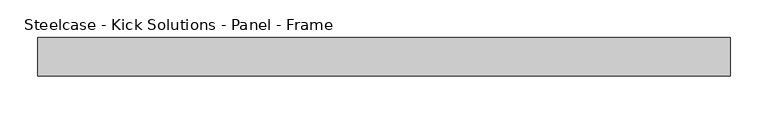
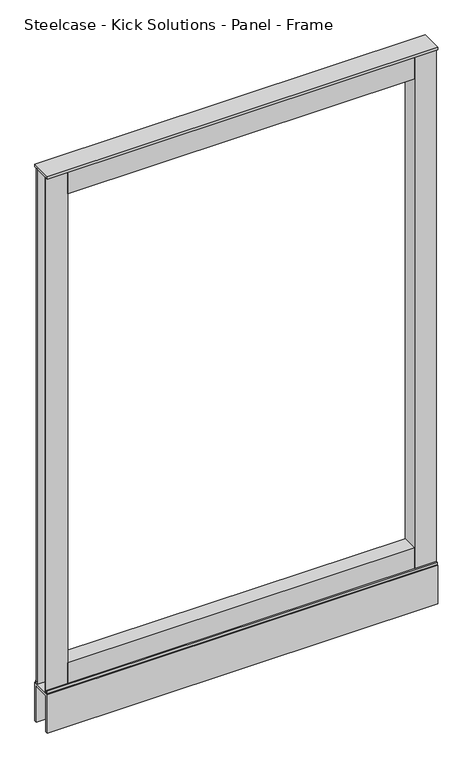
"""IFC4 building model written with IfcOpenShell, lengths in millimetres: furniture geometry, Steelcase - Kick Solutions - Panel - Frame : 54H x 36W."""

from ifc_helpers import new_model, si_unit, frame, origin, place, context, project, spatial, polyline, outline, extrude, source, transform, mapped, element, save


def steelcase_kick_solutions_panel_frame_c6ac9bd0(model_context):
    return source(origin(), model_context, "Body", "SweptSolid", [
        extrude(outline(polyline([(50.8006646, 6.3506854), (50.8006646, -31.7493123), (0.0, -31.7493123), (0.0, -29.2093123), (48.2606646, -29.2093123), (48.2606646, 3.8106854), (0.0, 3.8106854), (0.0, 6.3506854), (50.8006646, 6.3506854)])), frame((0.0, 0.0, 95.25), z_axis=(0.0, 0.0, 1.0), x_axis=(1.0, 0.0, 0.0)), (0.0, 0.0, 1.0), 1276.35),
        extrude(outline(polyline([(863.6006661, 6.3506854), (914.4, 6.3506854), (914.4, 3.8106854), (866.1393354, 3.8106854), (866.1393354, -29.2093123), (914.4, -29.2093123), (914.4, -31.7493123), (863.6006661, -31.7493123), (863.6006661, 6.3506854)])), frame((0.0, 0.0, 95.25), z_axis=(0.0, 0.0, 1.0), x_axis=(1.0, 0.0, 0.0)), (0.0, 0.0, 1.0), 1276.35),
        extrude(outline(polyline([(6.3506854, 101.600003), (9.5256855, 101.600003), (9.5256855, 95.25), (8.409661, 95.25), (8.409661, 100.2902081), (6.3506854, 100.2902081), (6.3506854, 101.600003)])), frame((0.0, 0.0, 0.0), z_axis=(1.0, 0.0, 0.0), x_axis=(0.0, 1.0, 0.0)), (0.0, 0.0, 1.0), 914.4),
        extrude(outline(polyline([(-34.9243138, 101.600003), (-31.7493123, 101.600003), (-31.7493123, 100.2902081), (-33.8479845, 100.2902081), (-33.8479845, 95.25), (-34.9243138, 95.25), (-34.9243138, 101.600003)])), frame((0.0, 0.0, 0.0), z_axis=(1.0, 0.0, 0.0), x_axis=(0.0, 1.0, 0.0)), (0.0, 0.0, 1.0), 914.4),
        extrude(outline(polyline([(863.6006661, -31.7493123), (50.8006646, -31.7493123), (50.8006646, 6.3506854), (863.6006661, 6.3506854), (863.6006661, -31.7493123)])), frame((0.0, 0.0, 1314.4500242), z_axis=(0.0, 0.0, 1.0), x_axis=(1.0, 0.0, 0.0)), (0.0, 0.0, 1.0), 57.1499758),
        extrude(outline(polyline([(863.6006661, -31.7493123), (50.8006646, -31.7493123), (50.8006646, 6.3506854), (863.6006661, 6.3506854), (863.6006661, -31.7493123)])), frame((0.0, 0.0, 95.25), z_axis=(0.0, 0.0, 1.0), x_axis=(1.0, 0.0, 0.0)), (0.0, 0.0, 1.0), 57.15),
        extrude(outline(polyline([(914.4, 12.7000004), (914.4, -38.1000011), (0.0, -38.1000011), (0.0, 12.7000004), (914.4, 12.7000004)])), frame((0.0, 0.0, 1371.6), z_axis=(0.0, 0.0, 1.0), x_axis=(1.0, 0.0, 0.0)), (0.0, 0.0, 1.0), 6.35),
        extrude(outline(polyline([(-38.1000011, 95.25), (12.7000004, 95.25), (12.7000004, 0.0), (6.3506854, 0.0), (6.3506854, 88.9), (-31.7493123, 88.9), (-31.7493123, 0.0), (-38.1000011, 0.0), (-38.1000011, 95.25)])), frame((0.0, 0.0, 0.0), z_axis=(1.0, 0.0, 0.0), x_axis=(0.0, 1.0, 0.0)), (0.0, 0.0, 1.0), 914.4),
    ])


if __name__ == "__main__":
    model = new_model("IFC4")
    model_context = context("Model", 3, world=origin())
    ifc_project = project(units=[si_unit("LENGTHUNIT", "METRE", prefix="MILLI")], contexts=[model_context])
    site = spatial("IfcSite", under=ifc_project)
    building = spatial("IfcBuilding", under=site)
    placement = place(None, origin())
    steelcase_kick_solutions_panel_frame_shape = steelcase_kick_solutions_panel_frame_c6ac9bd0(model_context)
    element("IfcFurniture", 1, ObjectType="Steelcase - Kick Solutions - Panel - Frame : 54H x 36W", at=placement, inside=building, context=model_context, shape_type="MappedRepresentation", body=[
        mapped(steelcase_kick_solutions_panel_frame_shape, transform((0.0, 0.0, 0.0), x_axis=(1.0, 0.0, 0.0), y_axis=(0.0, 1.0, 0.0), z_axis=(0.0, 0.0, 1.0))),
    ])
    save(model, "model.ifc")
